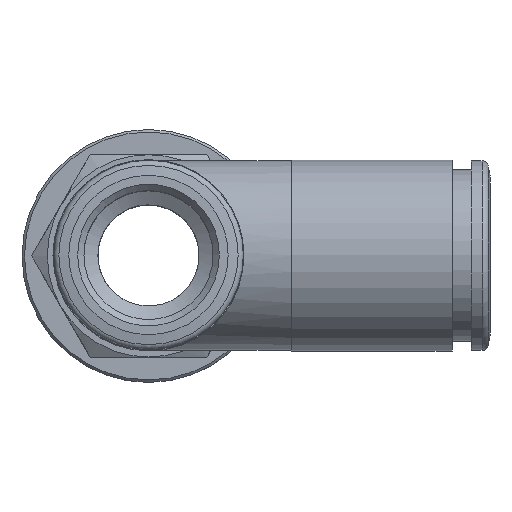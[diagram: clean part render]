
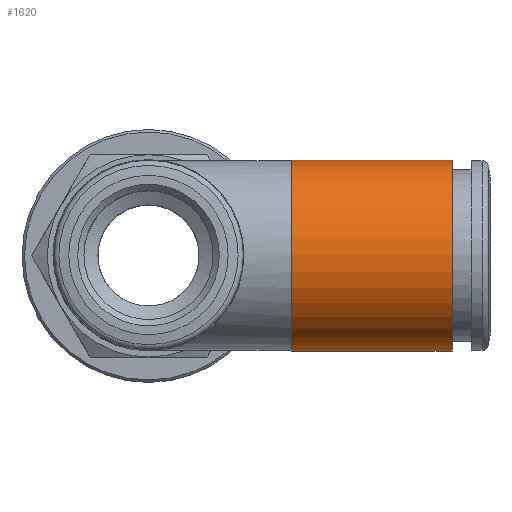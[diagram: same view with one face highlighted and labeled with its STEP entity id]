
A CAD part, top view. The second image highlights one B-rep face of the part: STEP entity #1620.
In plain terms, the highlighted cylindrical face has radius 7.55 mm (diameter 15.1 mm), a full revolution.
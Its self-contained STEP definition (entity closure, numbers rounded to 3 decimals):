
#1620=ADVANCED_FACE('', (#1630,#1640), #1650, .T.);
#7180=AXIS2_PLACEMENT_3D('Ax2Pl3d', #7190, #7200, #7210);
#7220=AXIS2_PLACEMENT_3D('Ax2Pl3d', #7230, #7240, #7250);
#7260=AXIS2_PLACEMENT_3D('Ax2Pl3d', #7270, #7280, #7290);
#7190=CARTESIAN_POINT('HicPkt', (45.153,18.213,
33.367));
#19880=CARTESIAN_POINT('', (45.153,18.213,40.917));
#7230=CARTESIAN_POINT('HicPkt', (45.153,18.213,
33.367));
#7270=CARTESIAN_POINT('HicPkt', (32.461,18.213,
33.367));
#19890=CARTESIAN_POINT('', (32.461,25.763,33.367));
#21040=CIRCLE('Circle', #7180, 7.55);
#21050=CIRCLE('Circle', #7260, 7.55);
#1650=CYLINDRICAL_SURFACE('Zyl', #7220, 7.55);
#7200=DIRECTION('Axis', (-1.,0.,0.))
;
#7210=DIRECTION('RefDirection', (0.,
0.,-1.));
#7240=DIRECTION('Axis', (-1.,0.,0.))
;
#7250=DIRECTION('RefDirection', (0.,
0.,-1.));
#7280=DIRECTION('Axis', (1.,0.,0.));
#7290=DIRECTION('RefDirection', (0.,0.,-1.));
#26660=EDGE_CURVE('', #26670, #26670, #21040, .T.);
#26680=EDGE_CURVE('', #26690, #26690, #21050, .T.);
#29860=EDGE_LOOP('Edge_loop', (#29870));
#29880=EDGE_LOOP('Edge_loop', (#29890));
#1640=FACE_BOUND('', #29880, .T.);
#1630=FACE_OUTER_BOUND('Face_outer_bound', #29860, .T.);
#29870=ORIENTED_EDGE('', *, *, #26680, .T.);
#29890=ORIENTED_EDGE('', *, *, #26660, .T.);
#26670=VERTEX_POINT('', #19880);
#26690=VERTEX_POINT('', #19890);
